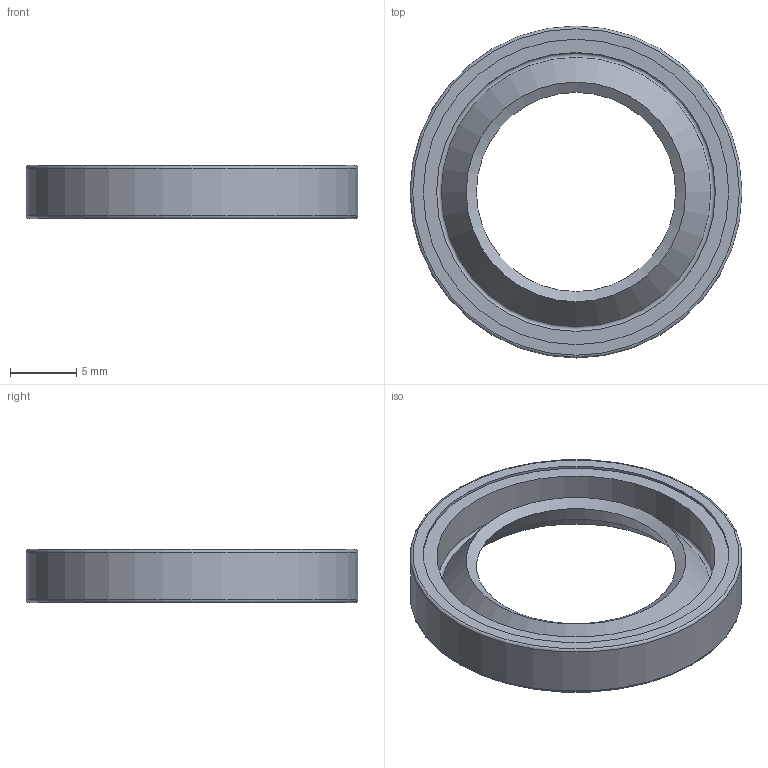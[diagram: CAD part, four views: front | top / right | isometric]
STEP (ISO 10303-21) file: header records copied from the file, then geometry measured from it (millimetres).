
FILE_DESCRIPTION(/* description */ ('오일 실 - 비스프링, 조립 GA'),/* implementation_level */ '2;1');
FILE_NAME(/* name */ '',/* time_stamp */ '2025-05-27T17:27:23+09:00',/* author */ ('jhkim'),/* organization */ (''),/* preprocessor_version */ 'ST-DEVELOPER v20.1',/* originating_system */ 'Autodesk Inventor 2026',/* authorisation */ '');
FILE_SCHEMA (('AUTOMOTIVE_DESIGN { 1 0 10303 214 3 1 1 }'));
Length unit declared in the file: millimetre
Products named in the file (1): 오일 실 15 25 4
Bounding box: 25 x 25 x 4 mm (x, y, z)
Volume: 779.6 mm3; surface area: 1293.9 mm2
Topology: 1 solids, 1 shells, 15 faces, 27 edges, 15 vertices
Faces by surface type: cone 5, torus 4, cylinder 3, plane 3
Full cylindrical faces by diameter (mm): 21 x1, 23 x1, 25 x1
Entity records: 415 total; most frequent: DIRECTION 78, CARTESIAN_POINT 58, ORIENTED_EDGE 54, AXIS2_PLACEMENT_3D 35, EDGE_CURVE 27, CIRCLE 19, EDGE_LOOP 18, FACE_OUTER_BOUND 15
